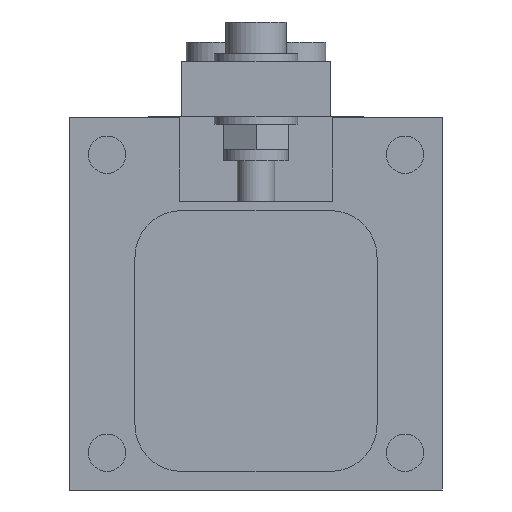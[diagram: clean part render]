
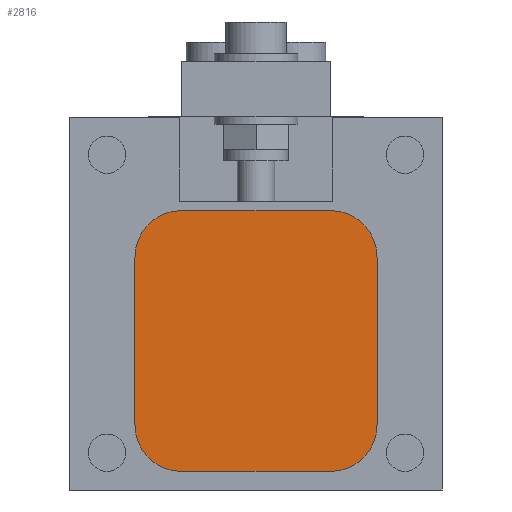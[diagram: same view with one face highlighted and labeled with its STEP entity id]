
A CAD part, front view. The second image highlights one B-rep face of the part: STEP entity #2816.
In plain terms, the highlighted planar face has unit normal (0, -1, 0).
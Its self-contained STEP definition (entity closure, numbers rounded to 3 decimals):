
#119 = LINE ( 'NONE', #4878, #3797 ) ;
#127 = DIRECTION ( 'NONE',  ( -1., 0., 0. ) ) ;
#164 = DIRECTION ( 'NONE',  ( 0., -1., 0. ) ) ;
#258 = VERTEX_POINT ( 'NONE', #3301 ) ;
#278 = CIRCLE ( 'NONE', #508, 5. ) ;
#389 = VECTOR ( 'NONE', #4751, 1000. ) ;
#414 = CARTESIAN_POINT ( 'NONE',  ( 10., 0.2, -33. ) ) ;
#436 = ORIENTED_EDGE ( 'NONE', *, *, #3024, .T. ) ;
#502 = CARTESIAN_POINT ( 'NONE',  ( 5., 0.2, -12. ) ) ;
#508 = AXIS2_PLACEMENT_3D ( 'NONE', #3038, #164, #3522 ) ;
#549 = DIRECTION ( 'NONE',  ( 1., 0., 0. ) ) ;
#574 = EDGE_LOOP ( 'NONE', ( #5105, #3426, #5884, #923, #436, #4837, #1234, #1178 ) ) ;
#606 = VERTEX_POINT ( 'NONE', #2559 ) ;
#785 = EDGE_CURVE ( 'NONE', #258, #2822, #968, .T. ) ;
#923 = ORIENTED_EDGE ( 'NONE', *, *, #1061, .T. ) ;
#968 = CIRCLE ( 'NONE', #2719, 5. ) ;
#993 = DIRECTION ( 'NONE',  ( -1., 0., 0. ) ) ;
#1061 = EDGE_CURVE ( 'NONE', #2943, #5808, #2014, .T. ) ;
#1178 = ORIENTED_EDGE ( 'NONE', *, *, #785, .T. ) ;
#1224 = CARTESIAN_POINT ( 'NONE',  ( 10., 0.2, -28. ) ) ;
#1234 = ORIENTED_EDGE ( 'NONE', *, *, #4401, .T. ) ;
#1291 = DIRECTION ( 'NONE',  ( 0., -1., 0. ) ) ;
#1316 = EDGE_CURVE ( 'NONE', #606, #1920, #278, .T. ) ;
#1412 = PLANE ( 'NONE',  #2693 ) ;
#1668 = LINE ( 'NONE', #1886, #389 ) ;
#1702 = AXIS2_PLACEMENT_3D ( 'NONE', #5854, #2990, #127 ) ;
#1886 = CARTESIAN_POINT ( 'NONE',  ( -18., 0.2, -33. ) ) ;
#1898 = VERTEX_POINT ( 'NONE', #4484 ) ;
#1920 = VERTEX_POINT ( 'NONE', #5363 ) ;
#2014 = CIRCLE ( 'NONE', #4621, 5. ) ;
#2117 = LINE ( 'NONE', #414, #4363 ) ;
#2138 = FACE_OUTER_BOUND ( 'NONE', #574, .T. ) ;
#2377 = DIRECTION ( 'NONE',  ( 0., -1., 0. ) ) ;
#2559 = CARTESIAN_POINT ( 'NONE',  ( -13., 0.2, -7. ) ) ;
#2693 = AXIS2_PLACEMENT_3D ( 'NONE', #4757, #2377, #5710 ) ;
#2711 = LINE ( 'NONE', #3438, #5253 ) ;
#2719 = AXIS2_PLACEMENT_3D ( 'NONE', #4169, #1291, #5117 ) ;
#2816 = ADVANCED_FACE ( 'NONE', ( #2138 ), #1412, .T. ) ;
#2822 = VERTEX_POINT ( 'NONE', #3803 ) ;
#2943 = VERTEX_POINT ( 'NONE', #5797 ) ;
#2990 = DIRECTION ( 'NONE',  ( 0., -1., 0. ) ) ;
#3024 = EDGE_CURVE ( 'NONE', #5808, #606, #119, .T. ) ;
#3038 = CARTESIAN_POINT ( 'NONE',  ( -13., 0.2, -12. ) ) ;
#3070 = DIRECTION ( 'NONE',  ( -1., 0., 0. ) ) ;
#3301 = CARTESIAN_POINT ( 'NONE',  ( -18., 0.2, -28. ) ) ;
#3426 = ORIENTED_EDGE ( 'NONE', *, *, #3538, .T. ) ;
#3438 = CARTESIAN_POINT ( 'NONE',  ( -18., 0.2, -33. ) ) ;
#3522 = DIRECTION ( 'NONE',  ( -1., 0., 0. ) ) ;
#3538 = EDGE_CURVE ( 'NONE', #1898, #5772, #5204, .T. ) ;
#3623 = CARTESIAN_POINT ( 'NONE',  ( 5., 0.2, -7. ) ) ;
#3797 = VECTOR ( 'NONE', #3070, 1000. ) ;
#3803 = CARTESIAN_POINT ( 'NONE',  ( -13., 0.2, -33. ) ) ;
#3869 = DIRECTION ( 'NONE',  ( 0., -1., 0. ) ) ;
#4169 = CARTESIAN_POINT ( 'NONE',  ( -13., 0.2, -28. ) ) ;
#4336 = EDGE_CURVE ( 'NONE', #5772, #2943, #2117, .T. ) ;
#4363 = VECTOR ( 'NONE', #4727, 1000. ) ;
#4401 = EDGE_CURVE ( 'NONE', #1920, #258, #1668, .T. ) ;
#4484 = CARTESIAN_POINT ( 'NONE',  ( 5., 0.2, -33. ) ) ;
#4621 = AXIS2_PLACEMENT_3D ( 'NONE', #502, #3869, #993 ) ;
#4727 = DIRECTION ( 'NONE',  ( 0., 0., 1. ) ) ;
#4751 = DIRECTION ( 'NONE',  ( 0., 0., -1. ) ) ;
#4757 = CARTESIAN_POINT ( 'NONE',  ( 10., 0.2, -33. ) ) ;
#4837 = ORIENTED_EDGE ( 'NONE', *, *, #1316, .T. ) ;
#4878 = CARTESIAN_POINT ( 'NONE',  ( -18., 0.2, -7. ) ) ;
#5105 = ORIENTED_EDGE ( 'NONE', *, *, #5512, .T. ) ;
#5117 = DIRECTION ( 'NONE',  ( -1., 0., 0. ) ) ;
#5204 = CIRCLE ( 'NONE', #1702, 5. ) ;
#5253 = VECTOR ( 'NONE', #549, 1000. ) ;
#5363 = CARTESIAN_POINT ( 'NONE',  ( -18., 0.2, -12. ) ) ;
#5512 = EDGE_CURVE ( 'NONE', #2822, #1898, #2711, .T. ) ;
#5710 = DIRECTION ( 'NONE',  ( -1., 0., 0. ) ) ;
#5772 = VERTEX_POINT ( 'NONE', #1224 ) ;
#5797 = CARTESIAN_POINT ( 'NONE',  ( 10., 0.2, -12. ) ) ;
#5808 = VERTEX_POINT ( 'NONE', #3623 ) ;
#5854 = CARTESIAN_POINT ( 'NONE',  ( 5., 0.2, -28. ) ) ;
#5884 = ORIENTED_EDGE ( 'NONE', *, *, #4336, .T. ) ;
